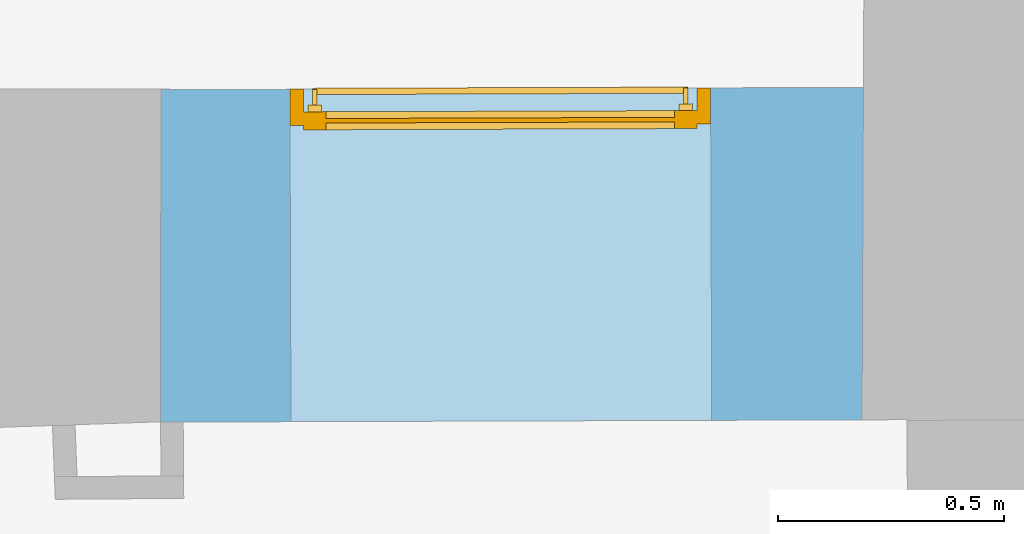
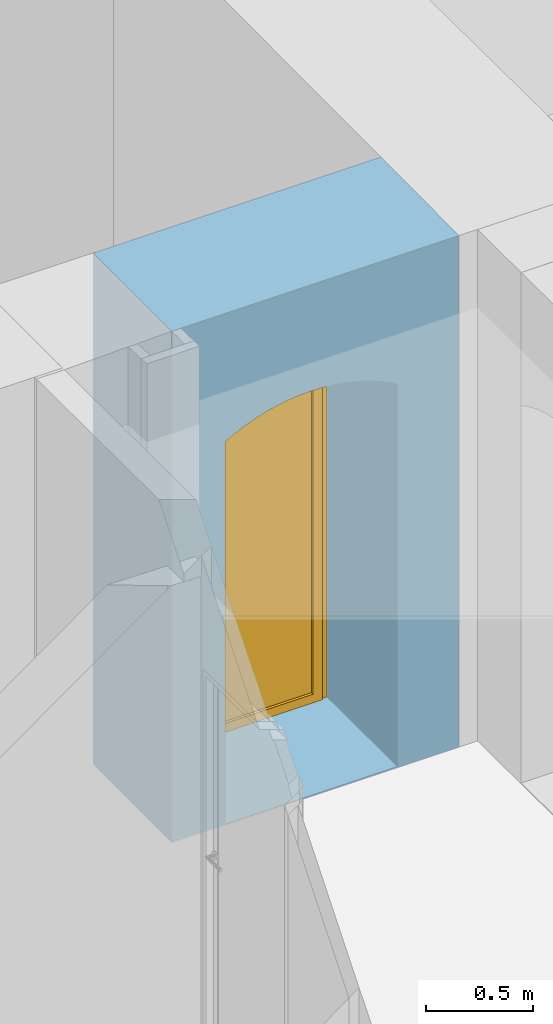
# One storey, part 103 of 133: 1 door, 1 opening, plus 1 element that does not belong to this part.
"""IFC2X3 building model written with IfcOpenShell, lengths in centimetres."""

import ifcopenshell
import ifcopenshell.guid

model = None  # the IFC model being written
_history = None  # IfcOwnerHistory: only IFC2X3 demands one
_inside = {}  # id of a spatial element -> (the spatial element, [elements in it])
_under = {}  # id of a project, library or spatial element -> (it, [spatial elements below it])
_declared = {}  # id of a project -> (the project, [libraries it declares])
_typed = {}  # id of a type object -> (the type object, [elements of that type])
_made_of = {}  # id of a material, layer set ... -> (it, [elements and type objects made of it])


def new_model(schema):
    """Start an empty IFC model of exactly this schema.

    Asked for "IFC4X3", IfcOpenShell would pick the latest addendum, in which some entities
    have other attributes; the version numbers below select the first issue.
    IFC2X3 requires an IfcOwnerHistory on every rooted entity: one is made here for all.
    """
    global model, _history
    if schema == "IFC4X3":
        model = ifcopenshell.file(schema_version=(4, 3, 0, 0))
    else:
        model = ifcopenshell.file(schema=schema)
    _inside.clear()
    _under.clear()
    _declared.clear()
    _typed.clear()
    _made_of.clear()
    _history = None
    if model.schema == "IFC2X3":
        org = make("IfcOrganization", Name="unknown")
        user = make(
            "IfcPersonAndOrganization",
            ThePerson=make("IfcPerson", FamilyName="unknown"),
            TheOrganization=org,
        )
        app = make(
            "IfcApplication",
            ApplicationDeveloper=org,
            Version="unknown",
            ApplicationFullName="unknown",
            ApplicationIdentifier="unknown",
        )
        _history = make(
            "IfcOwnerHistory",
            OwningUser=user,
            OwningApplication=app,
            ChangeAction="ADDED",
            CreationDate=0,
        )
    return model


def make(cls, **values):
    """One entity of the class cls with the attributes given. An attribute that is None is left unset."""
    return model.create_entity(
        cls, **{name: value for name, value in values.items() if value is not None}
    )


def entity(cls, *values):
    """Any entity or typed value of the class cls, its attributes in the order of the schema. None: left unset."""
    e = model.create_entity(cls)
    for i, value in enumerate(values):
        if value is not None:
            e[i] = value
    return e


def rooted(cls, **values):
    """An entity with a GlobalId (a new one), such as an element, a storey or a relation."""
    return make(cls, GlobalId=ifcopenshell.guid.new(), OwnerHistory=_history, **values)


def si_unit(unit_type, name, prefix=None):
    """IfcSIUnit, for example si_unit("LENGTHUNIT", "METRE", prefix="MILLI")."""
    return make("IfcSIUnit", UnitType=unit_type, Prefix=prefix, Name=name)


def converted_unit(unit_type, name, factor, base, dimensions=None, offset=None):
    """IfcConversionBasedUnit, such as the inch: factor (a typed value) times the base unit."""
    return make(
        "IfcConversionBasedUnit"
        if offset is None
        else "IfcConversionBasedUnitWithOffset",
        ConversionOffset=offset,
        Dimensions=None
        if dimensions is None
        else entity("IfcDimensionalExponents", *dimensions),
        UnitType=unit_type,
        Name=name,
        ConversionFactor=make(
            "IfcMeasureWithUnit", ValueComponent=factor, UnitComponent=base
        ),
    )


def assignment(units):
    """IfcUnitAssignment: the units of a project."""
    return None if units is None else make("IfcUnitAssignment", Units=units)


def point(xyz):
    """IfcCartesianPoint."""
    return None if xyz is None else make("IfcCartesianPoint", Coordinates=xyz)


def direction(xyz):
    """IfcDirection."""
    return None if xyz is None else make("IfcDirection", DirectionRatios=xyz)


def frame(location, z_axis=None, x_axis=None):
    """IfcAxis2Placement3D, a coordinate frame: its origin and axes. An axis left out is left unset."""
    return make(
        "IfcAxis2Placement3D",
        Location=point(location),
        Axis=direction(z_axis),
        RefDirection=direction(x_axis),
    )


def frame_2d(location, x_axis=None):
    """IfcAxis2Placement2D, a coordinate frame in the plane: its origin and x axis."""
    return make(
        "IfcAxis2Placement2D", Location=point(location), RefDirection=direction(x_axis)
    )


def origin():
    """The frame at (0, 0, 0) with its axes left unset."""
    return frame((0.0, 0.0, 0.0))


def origin_with_axes():
    """The frame at (0, 0, 0) with the z axis (0, 0, 1) and the x axis (1, 0, 0) written out."""
    return frame((0.0, 0.0, 0.0), z_axis=(0.0, 0.0, 1.0), x_axis=(1.0, 0.0, 0.0))


def place(relative_to, where):
    """IfcLocalPlacement: puts the frame where relative to a parent placement (None: the world)."""
    return make(
        "IfcLocalPlacement", PlacementRelTo=relative_to, RelativePlacement=where
    )


def context(
    kind, dimensions, precision=None, world=None, true_north=None, identifier=None
):
    """IfcGeometricRepresentationContext, for example the 3D "Model" context."""
    return make(
        "IfcGeometricRepresentationContext",
        ContextIdentifier=identifier,
        ContextType=kind,
        CoordinateSpaceDimension=dimensions,
        Precision=precision,
        WorldCoordinateSystem=world,
        TrueNorth=true_north,
    )


def subcontext(parent, identifier, kind, view, scale=None):
    """IfcGeometricRepresentationSubContext, for example "Body" below "Model"."""
    return make(
        "IfcGeometricRepresentationSubContext",
        ContextIdentifier=identifier,
        ContextType=kind,
        ParentContext=parent,
        TargetScale=scale,
        TargetView=view,
    )


def project(units=None, contexts=None):
    """IfcProject with its units and contexts."""
    return rooted(
        "IfcProject",
        Name="project",
        RepresentationContexts=contexts,
        UnitsInContext=assignment(units),
    )


def spatial(cls, under=None, at=None, **own):
    """A site, building, storey or space (cls), placed at a placement, below another one or the project."""
    s = rooted(cls, ObjectPlacement=at, **own)
    if under is not None:
        _under.setdefault(under.id(), (under, []))[1].append(s)
    return s


def polyline(points):
    """IfcPolyline through the points."""
    return make("IfcPolyline", Points=[point(p) for p in points])


def circle_curve(where, radius):
    """IfcCircle in the frame where."""
    return make("IfcCircle", Position=where, Radius=radius)


def trimmed(basis, trim1, trim2, sense, master):
    """IfcTrimmedCurve: the piece of a basis curve between two trims."""
    return make(
        "IfcTrimmedCurve",
        BasisCurve=basis,
        Trim1=trim1,
        Trim2=trim2,
        SenseAgreement=sense,
        MasterRepresentation=master,
    )


def segment(curve, same_sense, transition):
    """IfcCompositeCurveSegment."""
    return make(
        "IfcCompositeCurveSegment",
        Transition=transition,
        SameSense=same_sense,
        ParentCurve=curve,
    )


def composite_curve(segments, self_intersect=None):
    """IfcCompositeCurve: segments joined end to end."""
    return make("IfcCompositeCurve", Segments=segments, SelfIntersect=self_intersect)


def outline(outer, holes=None, kind="AREA"):
    """IfcArbitraryClosedProfileDef: a profile drawn as a closed curve; with holes, ...WithVoids."""
    if holes is None:
        return make("IfcArbitraryClosedProfileDef", ProfileType=kind, OuterCurve=outer)
    return make(
        "IfcArbitraryProfileDefWithVoids",
        ProfileType=kind,
        OuterCurve=outer,
        InnerCurves=holes,
    )


def extrude(swept, where, along, depth):
    """IfcExtrudedAreaSolid: the profile swept, set in the frame where, extruded along a direction by depth."""
    return make(
        "IfcExtrudedAreaSolid",
        SweptArea=swept,
        Position=where,
        ExtrudedDirection=direction(along),
        Depth=depth,
    )


def faces_of(points, faces, orient=None, outer=None):
    """IfcFace entities. A face is a list of loops; a loop is a list of indices into points, from 0.

    orient and outer hold one flag for each loop. By default every Orientation is true, the
    first loop of a face is its IfcFaceOuterBound and the others are IfcFaceBound.
    """
    made = []
    for i, loops in enumerate(faces):
        bounds = []
        for j, loop in enumerate(loops):
            is_outer = j == 0 if outer is None else outer[i][j]
            bounds.append(
                make(
                    "IfcFaceOuterBound" if is_outer else "IfcFaceBound",
                    Bound=make("IfcPolyLoop", Polygon=[points[k] for k in loop]),
                    Orientation=True if orient is None else orient[i][j],
                )
            )
        made.append(make("IfcFace", Bounds=bounds))
    return made


def faceted_brep(points, faces, orient=None, outer=None, voids=None):
    """IfcFacetedBrep: a solid bounded by flat faces; with voids (closed shells), ...WithVoids."""
    shared = [point(p) for p in points]
    hull = make("IfcClosedShell", CfsFaces=faces_of(shared, faces, orient, outer))
    if voids is None:
        return make("IfcFacetedBrep", Outer=hull)
    return make(
        "IfcFacetedBrepWithVoids",
        Outer=hull,
        Voids=[
            make(cls, CfsFaces=faces_of(shared, fs, o, b)) for cls, fs, o, b in voids
        ],
    )


def shape(context_of_items, identifier, shape_type, items):
    """IfcShapeRepresentation: the items that make up one representation, for example the "Body"."""
    return make(
        "IfcShapeRepresentation",
        ContextOfItems=context_of_items,
        RepresentationIdentifier=identifier,
        RepresentationType=shape_type,
        Items=items,
    )


def source(mapping_origin, context_of_items, identifier, shape_type, items):
    """IfcRepresentationMap: a shape defined once, which mapped items show again and again."""
    return make(
        "IfcRepresentationMap",
        MappingOrigin=mapping_origin,
        MappedRepresentation=shape(context_of_items, identifier, shape_type, items),
    )


def transform(
    local_origin,
    x_axis=None,
    y_axis=None,
    z_axis=None,
    scale=None,
    scale2=None,
    scale3=None,
    uniform=True,
):
    """IfcCartesianTransformationOperator3D, or its non-uniform kind. x_axis, y_axis, z_axis: its Axis1, 2, 3."""
    if uniform:
        return make(
            "IfcCartesianTransformationOperator3D",
            Axis1=direction(x_axis),
            Axis2=direction(y_axis),
            LocalOrigin=point(local_origin),
            Scale=scale,
            Axis3=direction(z_axis),
        )
    return make(
        "IfcCartesianTransformationOperator3DnonUniform",
        Axis1=direction(x_axis),
        Axis2=direction(y_axis),
        LocalOrigin=point(local_origin),
        Scale=scale,
        Axis3=direction(z_axis),
        Scale2=scale2,
        Scale3=scale3,
    )


def mapped(mapping_source, mapping_target):
    """IfcMappedItem: shows the shape of a source again, moved by a transform."""
    return make(
        "IfcMappedItem", MappingSource=mapping_source, MappingTarget=mapping_target
    )


def material(Name=None, Category=None):
    """IfcMaterial."""
    return make("IfcMaterial", Name=Name, Category=Category)


def material_list(materials):
    """IfcMaterialList."""
    return make("IfcMaterialList", Materials=materials)


def layer(
    of_material, thickness, ventilated=None, Name=None, Category=None, Priority=None
):
    """IfcMaterialLayer: one layer of a wall or slab, of a material (None: an air gap)."""
    return make(
        "IfcMaterialLayer",
        Material=of_material,
        LayerThickness=thickness,
        IsVentilated=ventilated,
        Name=Name,
        Category=Category,
        Priority=Priority,
    )


def layer_set(layers, Name=None):
    """IfcMaterialLayerSet."""
    return make("IfcMaterialLayerSet", MaterialLayers=layers, LayerSetName=Name)


def layer_usage(for_layer_set, set_direction, sense, offset, extent=None):
    """IfcMaterialLayerSetUsage: how a layer set lies in its element."""
    return make(
        "IfcMaterialLayerSetUsage",
        ForLayerSet=for_layer_set,
        LayerSetDirection=set_direction,
        DirectionSense=sense,
        OffsetFromReferenceLine=offset,
        ReferenceExtent=extent,
    )


def made_of(thing, what):
    """Note that an element or type object is made of a material, layer set ...; save() writes the relation."""
    if what is not None:
        _made_of.setdefault(what.id(), (what, []))[1].append(thing)
    return thing


def type_object(cls, material=None, **own):
    """A type object (cls), such as IfcWallType, which elements share."""
    return made_of(rooted(cls, **own), material)


def element(
    cls,
    number,
    at=None,
    inside=None,
    cuts=None,
    type_object=None,
    material=None,
    context=None,
    identifier="Body",
    shape_type=None,
    held_by="IfcProductDefinitionShape",
    body=None,
    shapes=None,
    **own,
):
    """One element of the class cls, such as IfcWall. Its Tag is "e" and its number.

    at: its placement. inside: the storey or other place that contains it. cuts: it is an
    opening in that element (IfcRelVoidsElement). A single representation is given by context,
    identifier, shape_type and body (its items); several are given by shapes. held_by: the class
    of the entity that holds the representations. save() writes the other relations.
    """
    e = rooted(cls, Tag="e%d" % number, ObjectPlacement=at, **own)
    if body is not None:
        shapes = [shape(context, identifier, shape_type, body)]
    if shapes is not None:
        e.Representation = make(held_by, Representations=shapes)
    if inside is not None:
        _inside.setdefault(inside.id(), (inside, []))[1].append(e)
    if cuts is not None:
        rooted(
            "IfcRelVoidsElement", RelatingBuildingElement=cuts, RelatedOpeningElement=e
        )
    if type_object is not None:
        _typed.setdefault(type_object.id(), (type_object, []))[1].append(e)
    return made_of(e, material)


def fill(opening, filler):
    """IfcRelFillsElement: the door or window that sits in an opening."""
    return rooted(
        "IfcRelFillsElement",
        RelatingOpeningElement=opening,
        RelatedBuildingElement=filler,
    )


def aggregate(whole, parts):
    """IfcRelAggregates: a whole, such as a stair, and the parts it consists of."""
    return rooted("IfcRelAggregates", RelatingObject=whole, RelatedObjects=parts)


def save(model, path):
    """Write the relations noted so far, then the file.

    IfcRelAggregates (storeys below a building ...), IfcRelContainedInSpatialStructure (elements
    in a storey), IfcRelDefinesByType, IfcRelAssociatesMaterial and IfcRelDeclares: one each for
    every whole, place, type object, material and project.
    """
    for whole, parts in _under.values():
        aggregate(whole, parts)
    for where, things in _inside.values():
        rooted(
            "IfcRelContainedInSpatialStructure",
            RelatedElements=things,
            RelatingStructure=where,
        )
    for kind, things in _typed.values():
        rooted("IfcRelDefinesByType", RelatedObjects=things, RelatingType=kind)
    for what, things in _made_of.values():
        rooted("IfcRelAssociatesMaterial", RelatedObjects=things, RelatingMaterial=what)
    for by, libraries in _declared.values():
        rooted("IfcRelDeclares", RelatingContext=by, RelatedDefinitions=libraries)
    model.write(path)


model = new_model("IFC2X3")

# Units and contexts
model_context = context("Model", 3, precision=0.0001, world=origin(), true_north=direction((0.225632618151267, 0.974212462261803, 0.0)))
body_context = subcontext(model_context, "Body", "Model", "MODEL_VIEW")
footprint_context = subcontext(model_context, "FootPrint", "Model", "MODEL_VIEW")
profile_context = subcontext(model_context, "Profile", "Model", "MODEL_VIEW")
ifc_project = project(units=[si_unit("LENGTHUNIT", "METRE", prefix="CENTI"), si_unit("AREAUNIT", "SQUARE_METRE", prefix="CENTI"), si_unit("VOLUMEUNIT", "CUBIC_METRE", prefix="CENTI"), converted_unit("PLANEANGLEUNIT", "DEGREE", entity("IfcRatioMeasure", 0.0174532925), si_unit("PLANEANGLEUNIT", "RADIAN"), dimensions=[0, 0, 0, 0, 0, 0, 0])], contexts=[model_context])

# Site, building, storey
site_placement = place(None, origin_with_axes())
site = spatial("IfcSite", under=ifc_project, at=site_placement, Name="Default Site", CompositionType="ELEMENT")
building_placement = place(site_placement, origin_with_axes())
building = spatial("IfcBuilding", under=site, at=building_placement, Name="Default Building", CompositionType="ELEMENT")
storey_placement = place(building_placement, frame((0.0, 0.0, -291.400371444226), z_axis=(0.0, 0.0, 1.0), x_axis=(1.0, 0.0, 0.0)))
storey = spatial("IfcBuildingStorey", under=building, at=storey_placement, Name="Rez-de-Jardin", CompositionType="ELEMENT", Elevation=-291.400371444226)

# Wall, opening, door
ifc_material_1 = material(Name="<aucun>")
ifc_layer = layer(ifc_material_1, 73.5)
ifc_layer_set = layer_set([ifc_layer], Name="default")
ifc_layer_usage = layer_usage(ifc_layer_set, "AXIS2", "POSITIVE", -36.75)
wall_type = type_object("IfcWallType", Name="default 735", PredefinedType="NOTDEFINED", material=ifc_layer_set)
wall_placement = place(storey_placement, frame((-883.313646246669, 185.12289857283, -1.94511073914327e-11), z_axis=(0.0, 0.0, 1.0), x_axis=(0.999994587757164, 0.00329005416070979, 0.0)))
wall = element("IfcWallStandardCase", 1, at=wall_placement, inside=storey, type_object=wall_type, material=ifc_layer_usage, Name="Enveloppe 55625", context=body_context, shape_type="SweptSolid", body=[
    extrude(outline(polyline([(-2.42295186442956, -36.75), (152.651319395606, -36.7500000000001), (153.19741024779, 36.7499999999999), (-2.11818906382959, 36.75), (-2.42295186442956, -36.75)])), frame((0.0, 0.0, 1.33226762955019e-13), z_axis=(0.0, 0.0, 1.0), x_axis=(1.0, 0.0, 0.0)), (0.0, 0.0, 1.0), 291.413221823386),
])
opening_placement = place(wall_placement, frame((26.4096536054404, 2.8421709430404e-14, 0.601514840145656), z_axis=(0.0, 0.0, 1.0), x_axis=(-1.0, 5.58147278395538e-16, 0.0)))
cartesian_point_1 = entity("IfcCartesianPoint", [0.0, 0.0, 218.0])
cartesian_point_2 = entity("IfcCartesianPoint", [-93.0000000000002, 4.44089209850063e-14, 218.0])
cartesian_point_3 = entity("IfcCartesianPoint", [-93.0000000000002, -36.75])
opening = element("IfcOpeningElement", 2, at=opening_placement, cuts=wall, Name="4294966339_12", ObjectType="Opening", shapes=[
    shape(body_context, "Body", "SweptSolid", [extrude(outline(composite_curve([segment(polyline([(1.77635683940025e-13, 218.0), (1.77635683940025e-13, 4.44089209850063e-14), (93.0000000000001, 4.44089209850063e-14), (93.0000000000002, 218.0)]), True, "CONTINUOUS"), segment(trimmed(circle_curve(frame_2d((46.5000000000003, 137.812812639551), x_axis=(1.0, 0.0)), 92.694309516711), [point((93.0000000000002, 218.0))], [point((1.77635683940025e-13, 218.0))], True, "CARTESIAN"), True, "CONTINUOUS")], self_intersect=False)), frame((0.0, -46.75, 0.0), z_axis=(0.0, 1.0, 0.0), x_axis=(-1.0, 0.0, 0.0)), (0.0, 0.0, 1.0), 93.5)]),
    shape(profile_context, "Profile", "GeometricCurveSet", [entity("IfcGeometricCurveSet", [entity("IfcCompositeCurve", [entity("IfcCompositeCurveSegment", "CONTINUOUS", True, entity("IfcPolyline", [cartesian_point_1, entity("IfcCartesianPoint", [0.0, 0.0, 4.44089209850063e-14]), entity("IfcCartesianPoint", [-93.0000000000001, 4.44089209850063e-14, 4.44089209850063e-14]), cartesian_point_2])), entity("IfcCompositeCurveSegment", "CONTINUOUS", True, entity("IfcTrimmedCurve", entity("IfcCircle", entity("IfcAxis2Placement3D", entity("IfcCartesianPoint", [-46.5000000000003, 0.0, 137.812812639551]), entity("IfcDirection", [4.77515279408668e-16, 1.0, 1.77534529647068e-15]), entity("IfcDirection", [1.0, -4.77515279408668e-16, 0.0])), 92.694309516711), [cartesian_point_2], [cartesian_point_1], True, "CARTESIAN"))], False)])]),
    shape(footprint_context, "FootPrint", "GeometricCurveSet", [entity("IfcGeometricCurveSet", [entity("IfcPolyline", [cartesian_point_3, entity("IfcCartesianPoint", [-1.77635683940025e-13, -36.75]), entity("IfcCartesianPoint", [0.0, 36.75]), entity("IfcCartesianPoint", [-93.0000000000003, 36.75]), cartesian_point_3])])]),
])
ifc_material_2 = material(Name="Bleu pastel")
ifc_material_3 = material(Name="Aluminium mat")
ifc_material_list = material_list([ifc_material_2, ifc_material_3])
door_style = type_object("IfcDoorStyle", Name="Porte de Secours_1VB[1P plein]_IMP arc", ConstructionType="NOTDEFINED", OperationType="NOTDEFINED", ParameterTakesPrecedence=False, Sizeable=False, material=ifc_material_list)
shared_shape = source(origin_with_axes(), body_context, "Body", "Brep", [
    faceted_brep([(46.5000003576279, 0.0, -3.99999991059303), (46.5000003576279, 0.0, 3.99999991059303), (43.5000002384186, 0.0, 3.99999991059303), (43.5000002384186, 0.0, -3.99999991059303), (43.5000002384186, 216.183137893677, 3.99999991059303), (43.5000002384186, 216.183137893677, -3.99999991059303), (46.5000003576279, 218.00000667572, 3.99999991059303), (46.5000003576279, 218.00000667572, -3.99999991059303), (38.0342333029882, 219.040578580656, 3.99999991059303), (38.0342333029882, 219.040578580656, -3.99999991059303), (39.307627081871, 221.760082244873, 3.99999991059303), (38.0342364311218, 219.040584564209, 3.99999991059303), (39.3076333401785, 221.760094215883, -3.99999991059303), (39.3076333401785, 221.760094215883, 3.99999991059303), (38.0342364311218, 219.040584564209, -3.99999991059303), (39.307627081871, 221.760082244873, -3.99999991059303), (30.7832991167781, 222.05616598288, 3.99999991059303), (30.7832991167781, 222.05616598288, -3.99999991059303), (31.81391954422, 224.876642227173, 3.99999991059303), (30.7832926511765, 222.056150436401, 3.99999991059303), (31.8139148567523, 224.876630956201, -3.99999991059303), (31.8139148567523, 224.876630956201, 3.99999991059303), (30.7832926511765, 222.056150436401, -3.99999991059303), (31.81391954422, 224.876642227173, -3.99999991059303), (23.2963579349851, 224.425922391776, 3.99999991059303), (23.2963579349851, 224.425922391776, -3.99999991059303), (24.0763276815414, 227.325749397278, 3.99999991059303), (23.2963621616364, 224.425935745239, 3.99999991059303), (24.0763285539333, 227.325752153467, -3.99999991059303), (24.0763285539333, 227.325752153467, 3.99999991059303), (23.2963621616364, 224.425935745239, -3.99999991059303), (24.0763276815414, 227.325749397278, -3.99999991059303), (15.6308413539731, 226.131725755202, 3.99999991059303), (15.6308413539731, 226.131725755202, -3.99999991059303), (16.1541625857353, 229.088640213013, 3.99999991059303), (15.630841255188, 226.131725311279, 3.99999991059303), (16.1541646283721, 229.088649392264, -3.99999991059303), (16.1541646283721, 229.088649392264, 3.99999991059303), (15.630841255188, 226.131725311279, -3.99999991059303), (16.1541625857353, 229.088640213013, -3.99999991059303), (7.84549324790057, 227.160458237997, 3.99999991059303), (7.84549324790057, 227.160458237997, -3.99999991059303), (8.10816064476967, 230.1518201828, 3.99999991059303), (7.8454926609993, 227.160453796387, 3.99999991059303), (8.1081599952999, 230.151815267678, -3.99999991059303), (8.1081599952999, 230.151815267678, 3.99999991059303), (7.8454926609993, 227.160453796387, -3.99999991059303), (8.10816064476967, 230.1518201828, -3.99999991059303), (-4.40783844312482e-07, 227.504243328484, 3.99999991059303), (-4.40783844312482e-07, 227.504243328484, -3.99999991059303), (1.19615441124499e-13, 230.507111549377, 3.99999991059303), (1.159445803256e-13, 227.504253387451, 3.99999991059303), (3.61175258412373e-07, 230.507119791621, -3.99999991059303), (3.61175258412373e-07, 230.507119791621, 3.99999991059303), (1.159445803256e-13, 227.504253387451, -3.99999991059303), (1.19615441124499e-13, 230.507111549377, -3.99999991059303), (-7.84549310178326, 227.160463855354, 3.99999991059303), (-7.84549310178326, 227.160463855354, -3.99999991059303), (-8.10816064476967, 230.1518201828, 3.99999991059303), (-7.8454926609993, 227.160453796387, 3.99999991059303), (-8.10816028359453, 230.151811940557, -3.99999991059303), (-8.10816028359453, 230.151811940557, 3.99999991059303), (-7.8454926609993, 227.160453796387, -3.99999991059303), (-8.10816064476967, 230.1518201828, -3.99999991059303), (-15.6308406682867, 226.131720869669, 3.99999991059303), (-15.6308406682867, 226.131720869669, -3.99999991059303), (-16.1541625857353, 229.088640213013, 3.99999991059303), (-15.630841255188, 226.131725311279, 3.99999991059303), (-16.1541632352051, 229.088645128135, -3.99999991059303), (-16.1541632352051, 229.088645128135, 3.99999991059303), (-15.630841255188, 226.131725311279, -3.99999991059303), (-16.1541625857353, 229.088640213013, -3.99999991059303), (-23.2963620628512, 224.425935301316, 3.99999991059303), (-23.2963620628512, 224.425935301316, -3.99999991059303), (-24.0763276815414, 227.325749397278, 3.99999991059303), (-23.2963621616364, 224.425935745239, 3.99999991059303), (-24.0763256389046, 227.325740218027, -3.99999991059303), (-24.0763256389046, 227.325740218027, 3.99999991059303), (-23.2963621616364, 224.425935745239, -3.99999991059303), (-24.0763276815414, 227.325749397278, -3.99999991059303), (-30.7832968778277, 222.056163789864, 3.99999991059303), (-30.7832968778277, 222.056163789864, -3.99999991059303), (-31.81391954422, 224.876642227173, 3.99999991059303), (-30.7832926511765, 222.056150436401, 3.99999991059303), (-31.8139186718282, 224.876639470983, -3.99999991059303), (-31.8139186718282, 224.876639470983, 3.99999991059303), (-30.7832926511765, 222.056150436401, -3.99999991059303), (-31.81391954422, 224.876642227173, -3.99999991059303), (-38.0342299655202, 219.04056901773, 3.99999991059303), (-38.0342299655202, 219.04056901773, -3.99999991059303), (-39.307627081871, 221.760082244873, 3.99999991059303), (-38.0342364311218, 219.040584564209, 3.99999991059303), (-39.3076317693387, 221.760093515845, -3.99999991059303), (-39.3076317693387, 221.760093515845, 3.99999991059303), (-38.0342364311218, 219.040584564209, -3.99999991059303), (-39.307627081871, 221.760082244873, -3.99999991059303), (-43.5000033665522, 216.18314387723, 3.99999991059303), (-43.5000033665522, 216.18314387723, -3.99999991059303), (-46.5000003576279, 218.00000667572, 3.99999991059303), (-43.5000002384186, 216.183137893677, 3.99999991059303), (-46.4999940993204, 217.999994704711, -3.99999991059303), (-46.4999940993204, 217.999994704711, 3.99999991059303), (-43.5000002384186, 216.183137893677, -3.99999991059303), (-46.5000003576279, 218.00000667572, -3.99999991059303), (-43.5000002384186, -9.86076131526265e-30, -3.99999991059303), (-43.5000002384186, -9.86076131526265e-30, 3.99999991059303), (-46.5000003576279, 1.56732430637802e-38, 3.99999991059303), (-46.5000003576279, 1.56732430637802e-38, -3.99999991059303), (-43.5000002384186, -6.29724578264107e-30, 3.99999991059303), (-43.5000002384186, -6.29724578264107e-30, -3.99999991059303), (-46.5000003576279, 0.0, 3.99999991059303), (-46.5000003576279, 5.65410615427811e-31, -3.99999991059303), (-46.5000003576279, 5.65410615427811e-31, 3.99999991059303), (-46.5000003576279, 0.0, -3.99999991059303)], [[[0, 1, 2, 3]], [[3, 2, 4, 5]], [[2, 1, 6, 4]], [[1, 0, 7, 6]], [[0, 3, 5, 7]], [[5, 4, 8, 9]], [[4, 6, 10, 11]], [[6, 7, 12, 13]], [[7, 5, 14, 15]], [[14, 11, 16, 17]], [[11, 10, 18, 19]], [[10, 15, 20, 21]], [[15, 14, 22, 23]], [[22, 19, 24, 25]], [[19, 18, 26, 27]], [[18, 23, 28, 29]], [[23, 22, 30, 31]], [[30, 27, 32, 33]], [[27, 26, 34, 35]], [[26, 31, 36, 37]], [[31, 30, 38, 39]], [[38, 35, 40, 41]], [[35, 34, 42, 43]], [[34, 39, 44, 45]], [[39, 38, 46, 47]], [[46, 43, 48, 49]], [[43, 42, 50, 51]], [[42, 47, 52, 53]], [[47, 46, 54, 55]], [[54, 51, 56, 57]], [[51, 50, 58, 59]], [[50, 55, 60, 61]], [[55, 54, 62, 63]], [[62, 59, 64, 65]], [[59, 58, 66, 67]], [[58, 63, 68, 69]], [[63, 62, 70, 71]], [[70, 67, 72, 73]], [[67, 66, 74, 75]], [[66, 71, 76, 77]], [[71, 70, 78, 79]], [[78, 75, 80, 81]], [[75, 74, 82, 83]], [[74, 79, 84, 85]], [[79, 78, 86, 87]], [[86, 83, 88, 89]], [[83, 82, 90, 91]], [[82, 87, 92, 93]], [[87, 86, 94, 95]], [[94, 91, 96, 97]], [[91, 90, 98, 99]], [[90, 95, 100, 101]], [[95, 94, 102, 103]], [[104, 105, 106, 107]], [[102, 99, 108, 109]], [[99, 98, 110, 105]], [[98, 103, 111, 112]], [[103, 102, 104, 113]]]),
    faceted_brep([(-38.4999990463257, 213.151001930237, 0.999999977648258), (-38.4999990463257, 213.151001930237, 5.00000007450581), (-38.4999990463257, 5.00000007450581, 5.00000007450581), (-38.4999990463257, 5.00000007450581, 0.999999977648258), (-43.5000002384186, 216.252732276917, 5.00000007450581), (-43.5000002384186, 0.0, 5.00000007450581), (-43.5000002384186, 216.252732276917, 0.999999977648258), (-43.5000002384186, 2.27991610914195e-30, 0.999999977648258), (-43.5000002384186, 2.27991610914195e-30, 5.00000007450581), (-43.5000002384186, 0.0, 0.999999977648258), (38.4999990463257, 5.00000007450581, 5.00000007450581), (38.4999990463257, 5.00000007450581, 0.999999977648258), (43.5000002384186, 0.0, 5.00000007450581), (43.5000002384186, 0.0, 0.999999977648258), (38.4999990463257, 213.151001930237, 5.00000007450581), (38.4999990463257, 213.151001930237, 0.999999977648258), (43.5000002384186, 216.252732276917, 5.00000007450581), (43.5000002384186, 216.252732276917, 0.999999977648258), (34.0898639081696, 215.337700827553, 5.00000007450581), (34.0898639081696, 215.337700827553, 0.999999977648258), (36.1046522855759, 219.919586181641, 5.00000007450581), (34.0898662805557, 215.337705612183, 5.00000007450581), (36.1046593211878, 219.919600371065, 0.999999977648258), (36.1046593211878, 219.919600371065, 5.00000007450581), (34.0898662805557, 215.337705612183, 0.999999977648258), (36.1046522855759, 219.919586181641, 0.999999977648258), (26.8184842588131, 218.143360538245, 5.00000007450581), (26.8184842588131, 218.143360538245, 0.999999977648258), (28.4035176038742, 222.891068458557, 5.00000007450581), (26.8184870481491, 218.143367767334, 5.00000007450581), (28.4035150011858, 222.891061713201, 0.999999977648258), (28.4035150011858, 222.891061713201, 5.00000007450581), (26.8184870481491, 218.143367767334, 0.999999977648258), (28.4035176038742, 222.891068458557, 0.999999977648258), (19.3199743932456, 220.268667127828, 5.00000007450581), (19.3199743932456, 220.268667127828, 0.999999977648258), (20.4618215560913, 225.141978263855, 5.00000007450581), (19.3199709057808, 220.268654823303, 5.00000007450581), (20.4618217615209, 225.141978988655, 0.999999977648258), (20.4618217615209, 225.141978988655, 5.00000007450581), (19.3199709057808, 220.268654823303, 0.999999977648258), (20.4618215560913, 225.141978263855, 0.999999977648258), (11.6578221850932, 221.695602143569, 5.00000007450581), (11.6578221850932, 221.695602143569, 0.999999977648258), (12.3468264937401, 226.653265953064, 5.00000007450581), (11.6578243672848, 221.695613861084, 5.00000007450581), (12.3468255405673, 226.653260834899, 0.999999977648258), (12.3468255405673, 226.653260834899, 5.00000007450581), (11.6578243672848, 221.695613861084, 0.999999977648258), (12.3468264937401, 226.653265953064, 0.999999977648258), (3.89694421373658, 222.412121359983, 5.00000007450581), (3.89694421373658, 222.412121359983, 0.999999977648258), (4.12726067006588, 227.412104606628, 5.00000007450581), (3.89694310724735, 222.412109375, 5.00000007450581), (4.12726214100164, 227.412120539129, 0.999999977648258), (4.12726214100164, 227.412120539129, 5.00000007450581), (3.89694310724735, 222.412109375, 0.999999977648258), (4.12726067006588, 227.412104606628, 0.999999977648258), (-3.89694310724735, 222.412109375, 5.00000007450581), (-3.89694310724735, 222.412109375, 0.999999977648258), (-4.12726067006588, 227.412104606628, 5.00000007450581), (-4.12726067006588, 227.412104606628, 0.999999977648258), (-11.6578232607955, 221.695601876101, 5.00000007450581), (-11.6578232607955, 221.695601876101, 0.999999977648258), (-12.3468264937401, 226.653265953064, 5.00000007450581), (-11.6578243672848, 221.695613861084, 5.00000007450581), (-12.3468250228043, 226.653250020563, 0.999999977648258), (-12.3468250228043, 226.653250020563, 5.00000007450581), (-11.6578243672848, 221.695613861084, 0.999999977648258), (-12.3468264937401, 226.653265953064, 0.999999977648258), (-19.3199730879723, 220.268666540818, 5.00000007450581), (-19.3199730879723, 220.268666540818, 0.999999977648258), (-20.4618215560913, 225.141978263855, 5.00000007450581), (-19.3199709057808, 220.268654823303, 5.00000007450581), (-20.4618225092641, 225.14198338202, 0.999999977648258), (-20.4618225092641, 225.14198338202, 5.00000007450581), (-19.3199709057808, 220.268654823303, 0.999999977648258), (-20.4618215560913, 225.141978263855, 0.999999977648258), (-26.8184835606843, 218.143355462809, 5.00000007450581), (-26.8184835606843, 218.143355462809, 0.999999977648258), (-28.4035176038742, 222.891068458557, 5.00000007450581), (-26.8184870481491, 218.143367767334, 5.00000007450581), (-28.4035173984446, 222.891067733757, 0.999999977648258), (-28.4035173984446, 222.891067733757, 5.00000007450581), (-26.8184870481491, 218.143367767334, 0.999999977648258), (-28.4035176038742, 222.891068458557, 0.999999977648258), (-34.0898690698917, 215.337712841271, 5.00000007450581), (-34.0898690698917, 215.337712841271, 0.999999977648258), (-36.1046522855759, 219.919586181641, 5.00000007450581), (-34.0898662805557, 215.337705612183, 5.00000007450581), (-36.1046548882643, 219.919592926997, 0.999999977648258), (-36.1046548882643, 219.919592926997, 5.00000007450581), (-34.0898662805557, 215.337705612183, 0.999999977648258), (-36.1046522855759, 219.919586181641, 0.999999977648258), (-38.5000014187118, 213.151006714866, 5.00000007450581), (-38.5000014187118, 213.151006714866, 0.999999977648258), (-43.4999932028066, 216.252718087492, 0.999999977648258), (-43.4999932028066, 216.252718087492, 5.00000007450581)], [[[0, 1, 2, 3]], [[1, 4, 5, 2]], [[4, 6, 7, 8]], [[6, 0, 3, 9]], [[3, 2, 10, 11]], [[2, 5, 12, 10]], [[5, 9, 13, 12]], [[9, 3, 11, 13]], [[11, 10, 14, 15]], [[10, 12, 16, 14]], [[12, 13, 17, 16]], [[13, 11, 15, 17]], [[15, 14, 18, 19]], [[14, 16, 20, 21]], [[16, 17, 22, 23]], [[17, 15, 24, 25]], [[24, 21, 26, 27]], [[21, 20, 28, 29]], [[20, 25, 30, 31]], [[25, 24, 32, 33]], [[32, 29, 34, 35]], [[29, 28, 36, 37]], [[28, 33, 38, 39]], [[33, 32, 40, 41]], [[40, 37, 42, 43]], [[37, 36, 44, 45]], [[36, 41, 46, 47]], [[41, 40, 48, 49]], [[48, 45, 50, 51]], [[45, 44, 52, 53]], [[44, 49, 54, 55]], [[49, 48, 56, 57]], [[56, 53, 58, 59]], [[53, 52, 60, 58]], [[52, 57, 61, 60]], [[57, 56, 59, 61]], [[59, 58, 62, 63]], [[58, 60, 64, 65]], [[60, 61, 66, 67]], [[61, 59, 68, 69]], [[68, 65, 70, 71]], [[65, 64, 72, 73]], [[64, 69, 74, 75]], [[69, 68, 76, 77]], [[76, 73, 78, 79]], [[73, 72, 80, 81]], [[72, 77, 82, 83]], [[77, 76, 84, 85]], [[84, 81, 86, 87]], [[81, 80, 88, 89]], [[80, 85, 90, 91]], [[85, 84, 92, 93]], [[92, 89, 94, 95]], [[89, 88, 4, 1]], [[88, 93, 96, 97]], [[93, 92, 0, 6]]]),
    faceted_brep([(39.5000010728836, 113.126361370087, 0.999999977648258), (39.5000010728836, 103.126358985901, 0.999999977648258), (42.5000011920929, 103.126358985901, 0.999999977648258), (42.5000011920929, 113.126361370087, 0.999999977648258), (42.5000011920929, 113.126361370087, -0.499999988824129), (42.5000011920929, 103.126358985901, -0.499999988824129), (39.5000010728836, 103.126358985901, -0.499999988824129), (39.5000010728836, 113.126361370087, -0.499999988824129)], [[[0, 1, 2, 3]], [[4, 5, 6, 7]], [[3, 2, 5, 4]], [[2, 1, 6, 5]], [[1, 0, 7, 6]], [[0, 3, 4, 7]]]),
    faceted_brep([(40.5000001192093, 109.376358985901, -0.499999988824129), (40.5000001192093, 106.876361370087, -0.499999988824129), (41.499999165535, 106.876361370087, -0.499999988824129), (41.499999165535, 109.376358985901, -0.499999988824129), (41.499999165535, 99.8763620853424, -3.95454540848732), (41.499999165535, 99.8763620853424, -3.045454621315), (40.5000001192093, 99.8763620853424, -3.045454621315), (40.5000001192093, 99.8763620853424, -3.95454540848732), (40.5000001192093, 99.8763619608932, -3.04545427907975), (41.499999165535, 99.8763619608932, -3.04545427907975), (41.499999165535, 99.8763617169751, -3.95454439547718), (40.5000001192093, 99.8763617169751, -3.95454439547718)], [[[0, 1, 2, 3]], [[4, 5, 6, 7]], [[3, 2, 5, 4]], [[2, 1, 8, 9]], [[1, 0, 7, 6]], [[0, 3, 10, 11]]]),
    faceted_brep([(-42.5000011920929, 113.126361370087, 0.999999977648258), (-42.5000011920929, 103.126358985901, 0.999999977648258), (-39.5000010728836, 103.126358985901, 0.999999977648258), (-39.5000010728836, 113.126361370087, 0.999999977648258), (-39.5000010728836, 113.126361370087, -0.499999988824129), (-39.5000010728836, 103.126358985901, -0.499999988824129), (-42.5000011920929, 103.126358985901, -0.499999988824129), (-42.5000011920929, 113.126361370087, -0.499999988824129)], [[[0, 1, 2, 3]], [[4, 5, 6, 7]], [[3, 2, 5, 4]], [[2, 1, 6, 5]], [[1, 0, 7, 6]], [[0, 3, 4, 7]]]),
    faceted_brep([(-41.499999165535, 109.376358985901, -0.499999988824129), (-41.499999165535, 106.876361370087, -0.499999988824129), (-40.5000001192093, 106.876361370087, -0.499999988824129), (-40.5000001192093, 109.376358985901, -0.499999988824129), (-40.5000001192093, 99.8763620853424, -3.95454540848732), (-40.5000001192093, 99.8763620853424, -3.045454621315), (-41.499999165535, 99.8763620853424, -3.045454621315), (-41.499999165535, 99.8763620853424, -3.95454540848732), (-41.499999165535, 99.8763619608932, -3.04545427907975), (-40.5000001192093, 99.8763619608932, -3.04545427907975), (-40.5000001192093, 99.8763617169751, -3.95454439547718), (-41.499999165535, 99.8763617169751, -3.95454439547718)], [[[0, 1, 2, 3]], [[4, 5, 6, 7]], [[3, 2, 5, 4]], [[2, 1, 8, 9]], [[1, 0, 7, 6]], [[0, 3, 10, 11]]]),
    faceted_brep([(41.499999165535, 96.8763589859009, -4.19999994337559), (41.499999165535, 99.8763620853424, -4.19999994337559), (41.499999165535, 99.8763620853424, -2.80000008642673), (41.499999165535, 96.8763589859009, -2.80000008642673), (-41.499999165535, 96.8763589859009, -2.80000008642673), (-41.499999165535, 99.8763620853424, -2.80000008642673), (-41.499999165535, 99.8763620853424, -4.19999994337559), (-41.499999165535, 96.8763589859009, -4.19999994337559)], [[[0, 1, 2, 3]], [[4, 5, 6, 7]], [[3, 2, 5, 4]], [[2, 1, 6, 5]], [[1, 0, 7, 6]], [[0, 3, 4, 7]]]),
    faceted_brep([(-31.2194526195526, 216.543197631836, 2.5000000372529), (-23.6610293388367, 219.134902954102, 2.5000000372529), (-15.8920019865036, 221.002769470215, 2.5000000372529), (-7.98152163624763, 222.13020324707, 2.5000000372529), (1.66533453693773e-13, 222.507119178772, 2.5000000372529), (7.98152163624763, 222.13020324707, 2.5000000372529), (15.8920019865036, 221.002769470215, 2.5000000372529), (23.6610293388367, 219.134902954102, 2.5000000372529), (31.2194526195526, 216.543197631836, 2.5000000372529), (38.4999990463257, 213.250708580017, 2.5000000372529), (38.4999990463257, 206.344079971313, 2.5000000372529), (-38.4999990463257, 206.344079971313, 2.5000000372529), (-38.4999990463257, 213.250708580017, 2.5000000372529), (-38.4999990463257, 213.250708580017, 3.50000001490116), (-38.4999990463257, 206.344079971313, 3.50000001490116), (38.4999990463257, 206.344079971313, 3.50000001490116), (38.4999990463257, 213.250708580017, 3.50000001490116), (31.2194526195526, 216.543197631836, 3.50000001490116), (23.6610293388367, 219.134902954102, 3.50000001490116), (15.8920019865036, 221.002769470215, 3.50000001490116), (7.98152163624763, 222.13020324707, 3.50000001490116), (1.66533453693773e-13, 222.507119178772, 3.50000001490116), (-7.98152163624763, 222.13020324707, 3.50000001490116), (-15.8920019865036, 221.002769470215, 3.50000001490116), (-23.6610293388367, 219.134902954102, 3.50000001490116), (-31.2194526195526, 216.543197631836, 3.50000001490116), (31.2194486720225, 216.543188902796, 2.5000000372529), (31.2194486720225, 216.543188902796, 3.50000001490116), (23.6610314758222, 219.134909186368, 2.5000000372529), (23.6610314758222, 219.134909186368, 3.50000001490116), (15.8920047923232, 221.002781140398, 2.5000000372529), (15.8920047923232, 221.002781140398, 3.50000001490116), (7.98151962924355, 222.130189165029, 2.5000000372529), (7.98151962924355, 222.130189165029, 3.50000001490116), (4.14938608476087e-07, 222.507127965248, 2.5000000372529), (4.14938608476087e-07, 222.507127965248, 3.50000001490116), (-7.98152122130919, 222.130194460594, 2.5000000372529), (-7.98152122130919, 222.130194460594, 3.50000001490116), (-15.8920039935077, 221.002783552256, 2.5000000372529), (-15.8920039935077, 221.002783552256, 3.50000001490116), (-23.6610265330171, 219.134891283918, 2.5000000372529), (-23.6610265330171, 219.134891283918, 3.50000001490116), (-31.2194504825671, 216.54319139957, 2.5000000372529), (-31.2194504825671, 216.54319139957, 3.50000001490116), (-38.5000029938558, 213.250717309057, 2.5000000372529), (-38.5000029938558, 213.250717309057, 3.50000001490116)], [[[0, 1, 2, 3, 4, 5, 6, 7, 8, 9, 10, 11, 12]], [[13, 14, 15, 16, 17, 18, 19, 20, 21, 22, 23, 24, 25]], [[12, 11, 14, 13]], [[11, 10, 15, 14]], [[10, 9, 16, 15]], [[9, 26, 27, 16]], [[8, 28, 29, 17]], [[7, 30, 31, 18]], [[6, 32, 33, 19]], [[5, 34, 35, 20]], [[4, 36, 37, 21]], [[3, 38, 39, 22]], [[2, 40, 41, 23]], [[1, 42, 43, 24]], [[0, 44, 45, 25]]]),
    faceted_brep([(38.4999990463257, 204.344081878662, 5.00000007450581), (38.4999990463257, 204.344081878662, 0.999999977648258), (38.4999990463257, 206.344079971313, 0.999999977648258), (38.4999990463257, 206.344079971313, 5.00000007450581), (-38.4999990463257, 206.344079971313, 5.00000007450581), (-38.4999990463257, 206.344079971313, 0.999999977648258), (-38.4999990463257, 204.344081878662, 0.999999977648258), (-38.4999990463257, 204.344081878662, 5.00000007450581)], [[[0, 1, 2, 3]], [[4, 5, 6, 7]], [[3, 2, 5, 4]], [[2, 1, 6, 5]], [[1, 0, 7, 6]], [[0, 3, 4, 7]]]),
    faceted_brep([(38.4999990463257, 204.344081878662, 2.5000000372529), (38.4999990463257, 5.00000007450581, 2.5000000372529), (-38.4999990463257, 5.00000007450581, 2.5000000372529), (-38.4999990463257, 204.344081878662, 2.5000000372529), (-38.4999990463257, 204.344081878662, 3.50000001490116), (-38.4999990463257, 5.00000007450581, 3.50000001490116), (38.4999990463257, 5.00000007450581, 3.50000001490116), (38.4999990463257, 204.344081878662, 3.50000001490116)], [[[0, 1, 2, 3]], [[4, 5, 6, 7]], [[3, 2, 5, 4]], [[2, 1, 6, 5]], [[1, 0, 7, 6]], [[0, 3, 4, 7]]]),
])
door_placement = place(opening_placement, frame((-93.0000000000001, -36.75, 4.44089209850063e-16), z_axis=(0.0, 0.0, 1.0), x_axis=(1.0, 0.0, 0.0)))
door = element("IfcDoor", 3, at=door_placement, inside=storey, type_object=door_style, material=ifc_material_list, Name="Porte 78747", OverallHeight=230.507122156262, OverallWidth=93.0, context=body_context, shape_type="MappedRepresentation", body=[
    mapped(shared_shape, transform((46.5000000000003, 3.99999999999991, 4.44089209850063e-14), x_axis=(-1.0, 0.0, 0.0), y_axis=(0.0, 0.0, 1.0), z_axis=(0.0, 1.0, 0.0), scale=1.0, scale2=1.0, scale3=1.0, uniform=False)),
])
fill(opening, door)

save(model, "model.ifc")
